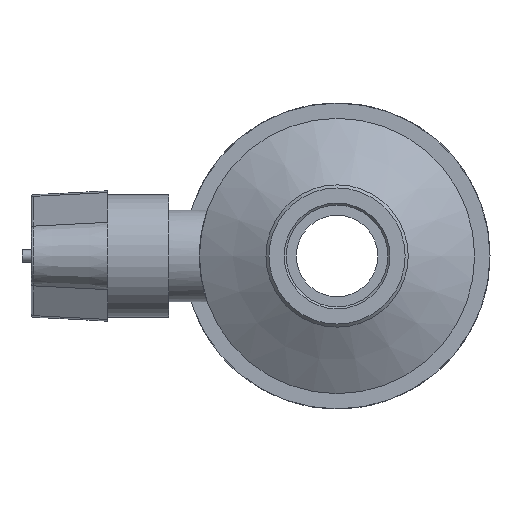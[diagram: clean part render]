
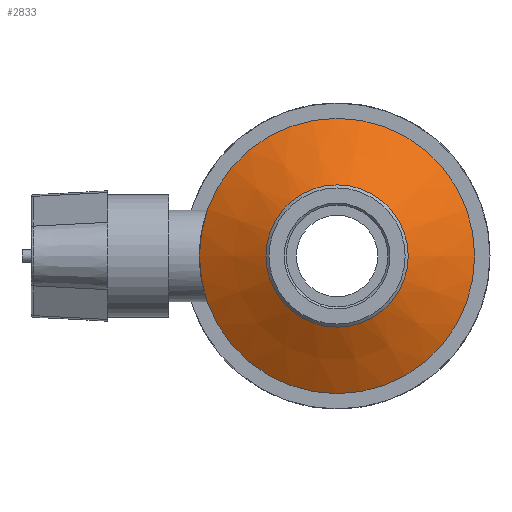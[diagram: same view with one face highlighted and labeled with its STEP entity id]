
A CAD part, left-side view. The second image highlights one B-rep face of the part: STEP entity #2833.
In plain terms, the highlighted conical face has half-angle 60 degrees and reference radius 15.357 mm.
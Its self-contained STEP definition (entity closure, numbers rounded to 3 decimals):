
#32=FACE_BOUND('',#494,.T.);
#149=CONICAL_SURFACE('',#3182,15.358,60.);
#310=FACE_OUTER_BOUND('',#493,.T.);
#493=EDGE_LOOP('',(#2605));
#494=EDGE_LOOP('',(#2606));
#686=CIRCLE('',#3181,10.465);
#687=CIRCLE('',#3183,20.25);
#1359=VERTEX_POINT('',#5590);
#1360=VERTEX_POINT('',#5593);
#1777=EDGE_CURVE('',#1359,#1359,#686,.T.);
#1778=EDGE_CURVE('',#1360,#1360,#687,.T.);
#2605=ORIENTED_EDGE('',*,*,#1778,.F.);
#2606=ORIENTED_EDGE('',*,*,#1777,.T.);
#2833=ADVANCED_FACE('',(#310,#32),#149,.T.);
#3181=AXIS2_PLACEMENT_3D('',#5591,#4038,#4039);
#3182=AXIS2_PLACEMENT_3D('',#5592,#4040,#4041);
#3183=AXIS2_PLACEMENT_3D('',#5594,#4042,#4043);
#4038=DIRECTION('center_axis',(1.,0.,0.));
#4039=DIRECTION('ref_axis',(0.,0.,-1.));
#4040=DIRECTION('center_axis',(1.,0.,0.));
#4041=DIRECTION('ref_axis',(0.,1.,0.));
#4042=DIRECTION('center_axis',(1.,0.,0.));
#4043=DIRECTION('ref_axis',(0.,0.,-1.));
#5590=CARTESIAN_POINT('',(-16.349,10.465,0.));
#5591=CARTESIAN_POINT('Origin',(-16.349,0.,0.));
#5592=CARTESIAN_POINT('Origin',(-13.525,0.,0.));
#5593=CARTESIAN_POINT('',(-10.7,20.25,0.));
#5594=CARTESIAN_POINT('Origin',(-10.7,0.,0.));
